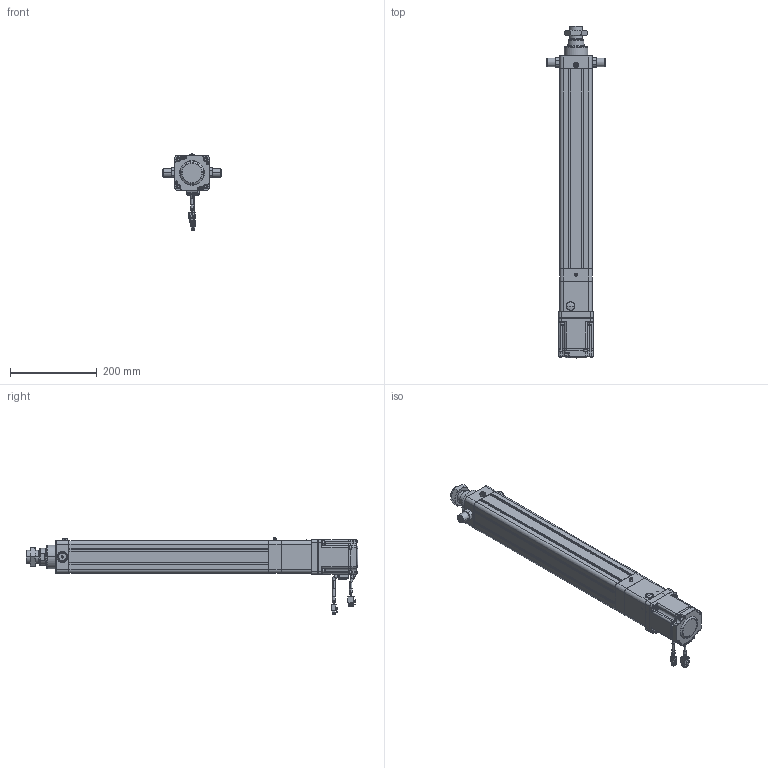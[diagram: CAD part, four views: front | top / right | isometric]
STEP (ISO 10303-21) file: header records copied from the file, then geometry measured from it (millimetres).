
FILE_DESCRIPTION((''),'2;1');
FILE_NAME('HE63-D-100-X1_ASM','2020-05-15T',('ASUS20200'),(''),'CREO PARAMETRIC BY PTC INC, 2014190','CREO PARAMETRIC BY PTC INC, 2014190','');
FILE_SCHEMA(('CONFIG_CONTROL_DESIGN'));
Length unit declared in the file: millimetre
Products named in the file (27): HE63-D-P-001-X1; HE63-D-P-002-X1; HE63-D-P-003-X1; LGLM-M8-22; HE63-D-009-X1; HE63-D-010-X1; M6X16; _MHMF082L1A2; _CABLE_MOTOR_BOTTOM_05; _CABLE_MOTOR_TOP_05; _MOTOR_CONNECTOR_2; _CABLE_BRAKE_BOTTOM_05; _CABLE_BRAKE_TOP_05; _MHMF_CONNECTOR_9_PIN_A6; MHMF082L1A2M2_1_ASM; SLM-01; YZ-M6X1; SKT-16; TD-6; JDB405030; JX6X6X25; HE63-D-P-005-X1; HE63-D-P-004-X1; HE63-D-P-008-X1; M6X25; HE63-TC; HE63-D-100-X1_ASM
Assembly tree (43 placements, depth 3):
  HE63-D-100-X1_ASM
    HE63-D-P-001-X1
    HE63-D-P-002-X1
    HE63-D-P-003-X1
    LGLM-M8-22  x8
    HE63-D-009-X1
    HE63-D-010-X1
    M6X16  x4
    MHMF082L1A2M2_1_ASM
      _MHMF082L1A2
      _CABLE_MOTOR_BOTTOM_05
      _CABLE_MOTOR_TOP_05
      _MOTOR_CONNECTOR_2
      _CABLE_BRAKE_BOTTOM_05
      _CABLE_BRAKE_TOP_05
      _MHMF_CONNECTOR_9_PIN_A6
    SLM-01
    YZ-M6X1
    SKT-16
    TD-6  x4
    JDB405030
    JX6X6X25
    HE63-D-P-005-X1
    HE63-D-P-004-X1
    HE63-D-P-008-X1
    M6X25  x4
    HE63-TC  x2
Bounding box: 135 x 766.9 x 179.15 mm (x, y, z)
Volume: 2201634.6 mm3; surface area: 619370.2 mm2
Topology: 42 solids, 71 shells, 2760 faces, 6757 edges, 4213 vertices
Faces by surface type: plane 1205, cylinder 799, cone 583, torus 126, sphere 44, bspline 3
Entity records: 69830 total; most frequent: CARTESIAN_POINT 13391, DIRECTION 12237, ORIENTED_EDGE 11220, EDGE_CURVE 5663, AXIS2_PLACEMENT_3D 4527, VERTEX_POINT 3559, VECTOR 3183, LINE 3183
